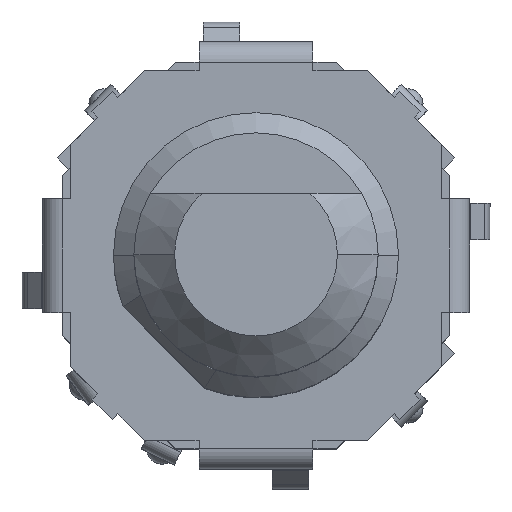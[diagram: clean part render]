
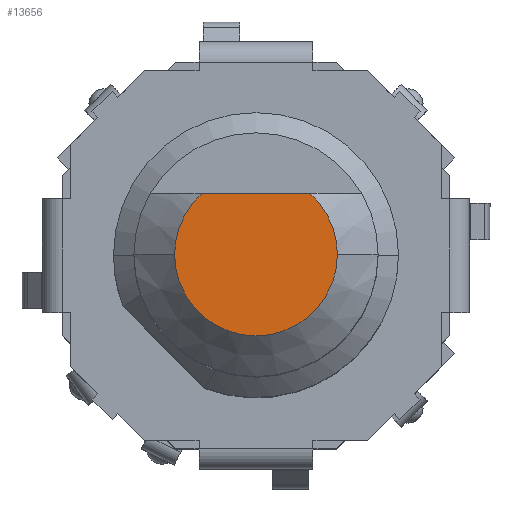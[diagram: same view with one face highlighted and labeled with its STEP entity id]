
A CAD part, top view. The second image highlights one B-rep face of the part: STEP entity #13656.
In plain terms, the highlighted planar face has unit normal (0, 0, 1).
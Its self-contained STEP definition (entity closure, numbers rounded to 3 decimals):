
#668 = ORIENTED_EDGE ( 'NONE', *, *, #9785, .F. ) ;
#718 = CARTESIAN_POINT ( 'NONE',  ( 0., 0., 19.5 ) ) ;
#812 = LINE ( 'NONE', #11672, #27837 ) ;
#2359 = CIRCLE ( 'NONE', #7152, 2. ) ;
#2971 = DIRECTION ( 'NONE',  ( -1., 0., 0. ) ) ;
#4048 = CARTESIAN_POINT ( 'NONE',  ( 0., 0., 19.5 ) ) ;
#4533 = CIRCLE ( 'NONE', #20947, 2. ) ;
#4904 = AXIS2_PLACEMENT_3D ( 'NONE', #9037, #24769, #11267 ) ;
#5446 = ORIENTED_EDGE ( 'NONE', *, *, #8222, .F. ) ;
#5705 = VERTEX_POINT ( 'NONE', #8270 ) ;
#5965 = DIRECTION ( 'NONE',  ( 0., 0., -1. ) ) ;
#6274 = DIRECTION ( 'NONE',  ( -1., 0., 0. ) ) ;
#6462 = EDGE_LOOP ( 'NONE', ( #5446, #16241, #668, #7713 ) ) ;
#7152 = AXIS2_PLACEMENT_3D ( 'NONE', #19308, #5965, #21618 ) ;
#7299 = DIRECTION ( 'NONE',  ( 1., 0., 0. ) ) ;
#7713 = ORIENTED_EDGE ( 'NONE', *, *, #28960, .F. ) ;
#8222 = EDGE_CURVE ( 'NONE', #11221, #5705, #4533, .T. ) ;
#8270 = CARTESIAN_POINT ( 'NONE',  ( 2., 0., 19.5 ) ) ;
#9037 = CARTESIAN_POINT ( 'NONE',  ( 0., 0., 19.5 ) ) ;
#9532 = EDGE_CURVE ( 'NONE', #14822, #11221, #812, .T. ) ;
#9785 = EDGE_CURVE ( 'NONE', #26048, #14822, #2359, .T. ) ;
#11221 = VERTEX_POINT ( 'NONE', #21044 ) ;
#11267 = DIRECTION ( 'NONE',  ( -1., 0., 0. ) ) ;
#11672 = CARTESIAN_POINT ( 'NONE',  ( 2.598, 1.5, 19.5 ) ) ;
#13563 = FACE_OUTER_BOUND ( 'NONE', #6462, .T. ) ;
#13656 = ADVANCED_FACE ( 'NONE', ( #13563 ), #25033, .F. ) ;
#14822 = VERTEX_POINT ( 'NONE', #18220 ) ;
#16241 = ORIENTED_EDGE ( 'NONE', *, *, #9532, .F. ) ;
#16287 = DIRECTION ( 'NONE',  ( 0., 0., -1. ) ) ;
#17493 = CARTESIAN_POINT ( 'NONE',  ( -2., 0., 19.5 ) ) ;
#18220 = CARTESIAN_POINT ( 'NONE',  ( -1.323, 1.5, 19.5 ) ) ;
#19308 = CARTESIAN_POINT ( 'NONE',  ( 0., 0., 19.5 ) ) ;
#19654 = DIRECTION ( 'NONE',  ( 0., 0., -1. ) ) ;
#20706 = CIRCLE ( 'NONE', #4904, 2. ) ;
#20947 = AXIS2_PLACEMENT_3D ( 'NONE', #4048, #19654, #6274 ) ;
#21044 = CARTESIAN_POINT ( 'NONE',  ( 1.323, 1.5, 19.5 ) ) ;
#21618 = DIRECTION ( 'NONE',  ( -1., 0., 0. ) ) ;
#24769 = DIRECTION ( 'NONE',  ( 0., 0., -1. ) ) ;
#25033 = PLANE ( 'NONE',  #27644 ) ;
#26048 = VERTEX_POINT ( 'NONE', #17493 ) ;
#27644 = AXIS2_PLACEMENT_3D ( 'NONE', #718, #16287, #2971 ) ;
#27837 = VECTOR ( 'NONE', #7299, 1000. ) ;
#28960 = EDGE_CURVE ( 'NONE', #5705, #26048, #20706, .T. ) ;
